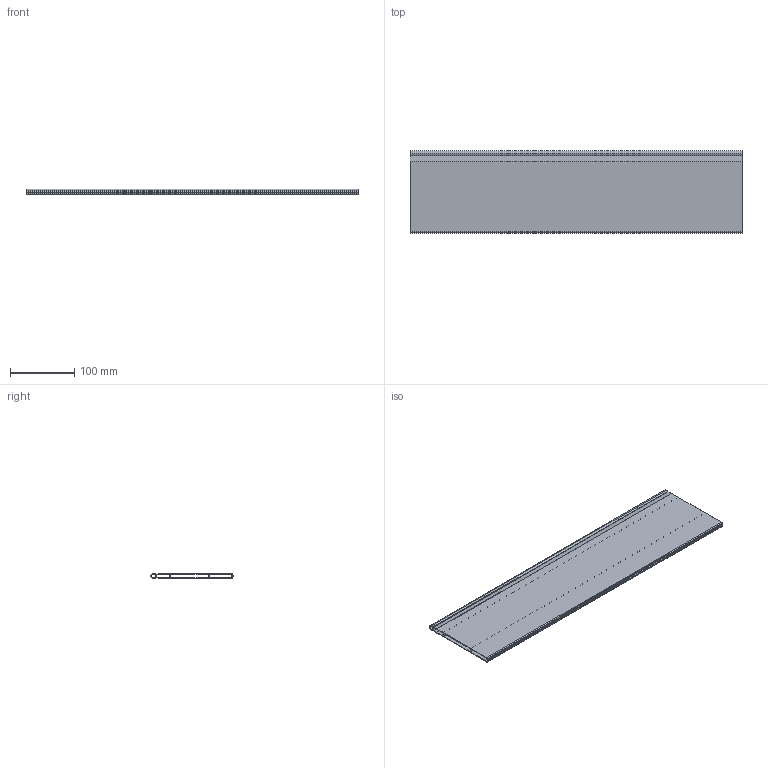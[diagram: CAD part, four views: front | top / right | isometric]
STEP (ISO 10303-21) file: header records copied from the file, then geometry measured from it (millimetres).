
FILE_DESCRIPTION (( 'STEP AP214' ), '1' );
FILE_NAME ('_Magic Optima Unterteilungsprofil DWD XP KAB 650.step', '2010-08-17T12:26:38', ( 'grass' ), ( '' ), 'SwSTEP 2.0', 'SolidWorks 2010', '' );
FILE_SCHEMA (( 'AUTOMOTIVE_DESIGN' ));
Length unit declared in the file: millimetre
Products named in the file (1): _Magic Optima Unterteilungsprofil DWD XP  KAB 650
Bounding box: 516 x 127.7 x 8.1 mm (x, y, z)
Volume: 180870.1 mm3; surface area: 280475.5 mm2
Topology: 1 solids, 1 shells, 39 faces, 111 edges, 74 vertices
Faces by surface type: plane 22, cylinder 17
Entity records: 1325 total; most frequent: DIRECTION 225, CARTESIAN_POINT 225, ORIENTED_EDGE 222, EDGE_CURVE 111, LINE 77, VECTOR 77, AXIS2_PLACEMENT_3D 74, VERTEX_POINT 74
